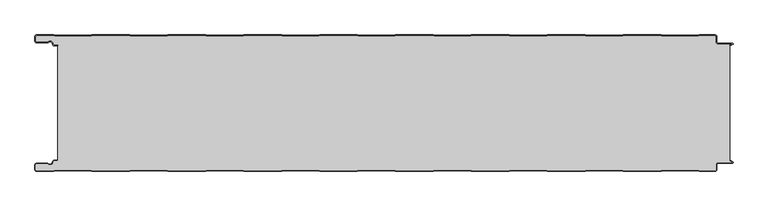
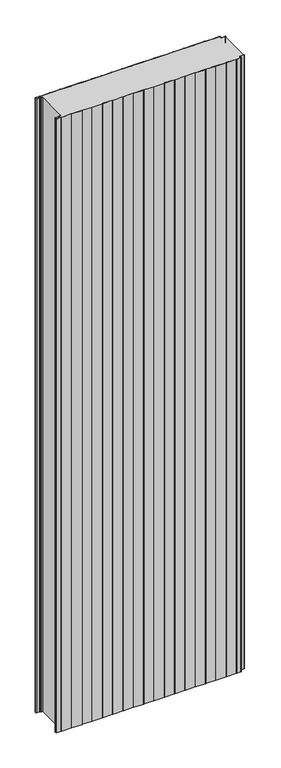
"""IFC4 building model written with IfcOpenShell, lengths in millimetres: plate geometry, ACH_Panel-Frigorífico_PUR-PIR : ACH_Panel-Frigorífico-PIR_200mm."""

from ifc_helpers import new_model, si_unit, point, frame_2d, origin, origin_with_axes, place, context, project, spatial, polyline, circle_curve, trimmed, segment, composite_curve, outline, extrude, source, transform, mapped, element, save


def plate_97d00396(model_context):
    return source(origin(), model_context, "Body", "SweptSolid", [
        extrude(outline(composite_curve([segment(trimmed(circle_curve(frame_2d((-497.49499, -9.0180361)), 2.50501), [point((-497.49499, -11.5230461))], [point((-500.0, -9.0180361))], False, "CARTESIAN"), True, "CONTINUOUS"), segment(polyline([(-500.0, -9.0180361), (-500.0, -2.50501)]), True, "CONTINUOUS"), segment(trimmed(circle_curve(frame_2d((-497.49499, -2.50501)), 2.50501), [point((-500.0, -2.50501))], [point((-497.49499, 0.0))], False, "CARTESIAN"), True, "CONTINUOUS"), segment(polyline([(-497.49499, 0.0), (-472.2103007, 0.0), (-471.028188, -0.6012024), (-417.6391467, -0.6012024), (-416.457034, 0.0), (-360.8776353, 0.0), (-359.6955227, -0.6012024), (-306.3064814, -0.6012024), (-305.1243687, 0.0), (-249.54497, 0.0), (-248.3628573, -0.6012024), (-194.973816, -0.6012024), (-193.7917033, 0.0), (-138.2123047, 0.0), (-137.030192, -0.6012024), (-83.6411507, -0.6012024), (-82.459038, 0.0), (-26.8796393, 0.0), (-25.6975267, -0.6012024), (27.6915146, -0.6012024), (28.8736273, 0.0), (84.453026, 0.0), (85.6351387, -0.6012024), (139.02418, -0.6012024), (140.2062927, 0.0), (195.7856913, 0.0), (196.967804, -0.6012024), (250.3568453, -0.6012024), (251.538958, 0.0), (307.1183566, 0.0), (308.3004693, -0.6012024), (361.6895106, -0.6012024), (362.8716233, 0.0), (418.451022, 0.0), (419.6331347, -0.6012024), (473.022176, -0.6012024), (474.2042886, 0.0), (497.49499, 0.0)]), True, "CONTINUOUS"), segment(trimmed(circle_curve(frame_2d((497.49499, -2.50501)), 2.50501), [point((497.49499, 0.0))], [point((500.0, -2.50501))], False, "CARTESIAN"), True, "CONTINUOUS"), segment(polyline([(500.0, -2.50501), (500.0, -10.0200401)]), True, "CONTINUOUS"), segment(trimmed(circle_curve(frame_2d((502.004008, -10.0200401)), 2.004008), [point((500.0, -10.0200401))], [point((502.004008, -12.0240481))], True, "CARTESIAN"), True, "CONTINUOUS"), segment(polyline([(502.004008, -12.0240481), (523.0460922, -12.0240481)]), True, "CONTINUOUS"), segment(trimmed(circle_curve(frame_2d((523.0460922, -13.0260521)), 1.002004), [point((523.0460922, -12.0240481))], [point((523.5470942, -13.893813))], False, "CARTESIAN"), True, "CONTINUOUS"), segment(polyline([(523.5470942, -13.893813), (519.5390782, -16.2078422), (519.1390782, -15.5150218), (522.183956, -13.7570608)]), True, "CONTINUOUS"), segment(trimmed(circle_curve(frame_2d((521.933956, -13.3240481)), 0.5), [point((522.183956, -13.7570608))], [point((521.933956, -12.8240481))], True, "CARTESIAN"), True, "CONTINUOUS"), segment(polyline([(521.933956, -12.8240481), (502.004008, -12.8240481)]), True, "CONTINUOUS"), segment(trimmed(circle_curve(frame_2d((502.004008, -10.0200401)), 2.804008), [point((502.004008, -12.8240481))], [point((499.2, -10.0200401))], False, "CARTESIAN"), True, "CONTINUOUS"), segment(polyline([(499.2, -10.0200401), (499.2, -2.50501)]), True, "CONTINUOUS"), segment(trimmed(circle_curve(frame_2d((497.49499, -2.50501)), 1.70501), [point((499.2, -2.50501))], [point((497.49499, -0.8))], True, "CARTESIAN"), True, "CONTINUOUS"), segment(polyline([(497.49499, -0.8), (474.396035, -0.8), (473.2139223, -1.4012024), (419.4413883, -1.4012024), (418.2592756, -0.8), (363.0633697, -0.8), (361.881257, -1.4012024), (308.108723, -1.4012024), (306.9266103, -0.8), (251.7307044, -0.8), (250.5485917, -1.4012024), (196.7760576, -1.4012024), (195.5939449, -0.8), (140.398039, -0.8), (139.2159263, -1.4012024), (85.4433923, -1.4012024), (84.2612796, -0.8), (29.0653737, -0.8), (27.883261, -1.4012024), (-25.889273, -1.4012024), (-27.0713857, -0.8), (-82.2672916, -0.8), (-83.4494043, -1.4012024), (-137.2219384, -1.4012024), (-138.4040511, -0.8), (-193.599957, -0.8), (-194.7820696, -1.4012024), (-248.5546037, -1.4012024), (-249.7367164, -0.8), (-304.9326223, -0.8), (-306.114735, -1.4012024), (-359.887269, -1.4012024), (-361.0693817, -0.8), (-416.2652876, -0.8), (-417.4474003, -1.4012024), (-471.2199344, -1.4012024), (-472.4020471, -0.8), (-497.49499, -0.8)]), True, "CONTINUOUS"), segment(trimmed(circle_curve(frame_2d((-497.49499, -2.50501)), 1.70501), [point((-497.49499, -0.8))], [point((-499.2, -2.50501))], True, "CARTESIAN"), True, "CONTINUOUS"), segment(polyline([(-499.2, -2.50501), (-499.2, -9.0180361)]), True, "CONTINUOUS"), segment(trimmed(circle_curve(frame_2d((-497.49499, -9.0180361)), 1.70501), [point((-499.2, -9.0180361))], [point((-497.49499, -10.7230461))], True, "CARTESIAN"), True, "CONTINUOUS"), segment(polyline([(-497.49499, -10.7230461), (-481.8173283, -10.7230461)]), True, "CONTINUOUS"), segment(trimmed(circle_curve(frame_2d((-481.8173283, -9.0180361)), 1.70501), [point((-481.8173283, -10.7230461))], [point((-480.6895701, -10.2967936))], True, "CARTESIAN"), True, "CONTINUOUS"), segment(trimmed(circle_curve(frame_2d((-477.8407481, -13.5270541)), 4.307014), [point((-480.6895701, -10.2967936))], [point((-473.7934788, -12.0539686))], False, "CARTESIAN"), True, "CONTINUOUS"), segment(polyline([(-473.7934788, -12.0539686), (-473.0450711, -14.1102019)]), True, "CONTINUOUS"), segment(trimmed(circle_curve(frame_2d((-471.4428858, -13.5270541)), 1.70501), [point((-473.0450711, -14.1102019))], [point((-471.4428858, -15.2320641))], True, "CARTESIAN"), True, "CONTINUOUS"), segment(polyline([(-471.4428858, -15.2320641), (-466.4328657, -15.2320641), (-466.4328657, -16.0320641), (-471.4428858, -16.0320641)]), True, "CONTINUOUS"), segment(trimmed(circle_curve(frame_2d((-471.4428858, -13.5270541)), 2.50501), [point((-471.4428858, -16.0320641))], [point((-473.7968252, -14.383818))], False, "CARTESIAN"), True, "CONTINUOUS"), segment(polyline([(-473.7968252, -14.383818), (-474.5452329, -12.3275847)]), True, "CONTINUOUS"), segment(trimmed(circle_curve(frame_2d((-477.8407481, -13.5270541)), 3.507014), [point((-474.5452329, -12.3275847))], [point((-480.1604199, -10.8967936))], True, "CARTESIAN"), True, "CONTINUOUS"), segment(trimmed(circle_curve(frame_2d((-481.8173283, -9.0180361)), 2.50501), [point((-480.1604199, -10.8967936))], [point((-481.8173283, -11.5230461))], False, "CARTESIAN"), True, "CONTINUOUS"), segment(polyline([(-481.8173283, -11.5230461), (-497.49499, -11.5230461)]), True, "CONTINUOUS")], self_intersect=False)), origin_with_axes(), (0.0, 0.0, 1.0), 3500.0),
        extrude(outline(composite_curve([segment(trimmed(circle_curve(frame_2d((-471.4428858, -13.5270541)), 1.70501), [point((-471.4428858, -15.2320641))], [point((-473.0450711, -14.1102019))], False, "CARTESIAN"), True, "CONTINUOUS"), segment(polyline([(-473.0450711, -14.1102019), (-473.7934788, -12.0539686)]), True, "CONTINUOUS"), segment(trimmed(circle_curve(frame_2d((-477.8407481, -13.5270541)), 4.307014), [point((-473.7934788, -12.0539686))], [point((-480.6895701, -10.2967936))], True, "CARTESIAN"), True, "CONTINUOUS"), segment(trimmed(circle_curve(frame_2d((-481.8173283, -9.0180361)), 1.70501), [point((-480.6895701, -10.2967936))], [point((-481.8173283, -10.7230461))], False, "CARTESIAN"), True, "CONTINUOUS"), segment(polyline([(-481.8173283, -10.7230461), (-497.49499, -10.7230461)]), True, "CONTINUOUS"), segment(trimmed(circle_curve(frame_2d((-497.49499, -9.0180361)), 1.70501), [point((-497.49499, -10.7230461))], [point((-499.2, -9.0180361))], False, "CARTESIAN"), True, "CONTINUOUS"), segment(polyline([(-499.2, -9.0180361), (-499.2, -2.50501)]), True, "CONTINUOUS"), segment(trimmed(circle_curve(frame_2d((-497.49499, -2.50501)), 1.70501), [point((-499.2, -2.50501))], [point((-497.49499, -0.8))], False, "CARTESIAN"), True, "CONTINUOUS"), segment(polyline([(-497.49499, -0.8), (-472.4020471, -0.8), (-471.2199344, -1.4012024), (-417.4474003, -1.4012024), (-416.2652876, -0.8), (-361.0693817, -0.8), (-359.887269, -1.4012024), (-306.114735, -1.4012024), (-304.9326223, -0.8), (-249.7367164, -0.8), (-248.5546037, -1.4012024), (-194.7820696, -1.4012024), (-193.599957, -0.8), (-138.4040511, -0.8), (-137.2219384, -1.4012024), (-83.4494043, -1.4012024), (-82.2672916, -0.8), (-27.0713857, -0.8), (-25.889273, -1.4012024), (27.883261, -1.4012024), (29.0653737, -0.8), (84.2612796, -0.8), (85.4433923, -1.4012024), (139.2159263, -1.4012024), (140.398039, -0.8), (195.5939449, -0.8), (196.7760576, -1.4012024), (250.5485917, -1.4012024), (251.7307044, -0.8), (306.9266103, -0.8), (308.108723, -1.4012024), (361.881257, -1.4012024), (363.0633697, -0.8), (418.2592756, -0.8), (419.4413883, -1.4012024), (473.2139223, -1.4012024), (474.396035, -0.8), (497.49499, -0.8)]), True, "CONTINUOUS"), segment(trimmed(circle_curve(frame_2d((497.49499, -2.50501)), 1.70501), [point((497.49499, -0.8))], [point((499.2, -2.50501))], False, "CARTESIAN"), True, "CONTINUOUS"), segment(polyline([(499.2, -2.50501), (499.2, -10.0200401)]), True, "CONTINUOUS"), segment(trimmed(circle_curve(frame_2d((502.004008, -10.0200401)), 2.804008), [point((499.2, -10.0200401))], [point((502.004008, -12.8240481))], True, "CARTESIAN"), True, "CONTINUOUS"), segment(polyline([(502.004008, -12.8240481), (521.933956, -12.8240481)]), True, "CONTINUOUS"), segment(trimmed(circle_curve(frame_2d((521.933956, -13.3240481)), 0.5), [point((521.933956, -12.8240481))], [point((522.183956, -13.7570608))], False, "CARTESIAN"), True, "CONTINUOUS"), segment(polyline([(522.183956, -13.7570608), (519.1390782, -15.5150218), (519.1390782, -184.4849782), (522.183956, -186.2429392)]), True, "CONTINUOUS"), segment(trimmed(circle_curve(frame_2d((521.933956, -186.6759519)), 0.5), [point((522.183956, -186.2429392))], [point((521.933956, -187.1759519))], False, "CARTESIAN"), True, "CONTINUOUS"), segment(polyline([(521.933956, -187.1759519), (502.004008, -187.1759519)]), True, "CONTINUOUS"), segment(trimmed(circle_curve(frame_2d((502.004008, -189.9799599)), 2.804008), [point((502.004008, -187.1759519))], [point((499.2, -189.9799599))], True, "CARTESIAN"), True, "CONTINUOUS"), segment(polyline([(499.2, -189.9799599), (499.2, -197.49499)]), True, "CONTINUOUS"), segment(trimmed(circle_curve(frame_2d((497.49499, -197.49499)), 1.70501), [point((499.2, -197.49499))], [point((497.49499, -199.2))], False, "CARTESIAN"), True, "CONTINUOUS"), segment(polyline([(497.49499, -199.2), (474.396035, -199.2), (473.2139223, -198.5987976), (419.4413883, -198.5987976), (418.2592756, -199.2), (363.0633697, -199.2), (361.881257, -198.5987976), (308.108723, -198.5987976), (306.9266103, -199.2), (251.7307044, -199.2), (250.5485917, -198.5987976), (196.7760576, -198.5987976), (195.5939449, -199.2), (140.398039, -199.2), (139.2159263, -198.5987976), (85.4433923, -198.5987976), (84.2612796, -199.2), (29.0653737, -199.2), (27.883261, -198.5987976), (-25.889273, -198.5987976), (-27.0713857, -199.2), (-82.2672916, -199.2), (-83.4494043, -198.5987976), (-137.2219384, -198.5987976), (-138.4040511, -199.2), (-193.599957, -199.2), (-194.7820696, -198.5987976), (-248.5546037, -198.5987976), (-249.7367164, -199.2), (-304.9326223, -199.2), (-306.114735, -198.5987976), (-359.887269, -198.5987976), (-361.0693817, -199.2), (-416.2652876, -199.2), (-417.4474003, -198.5987976), (-471.2199344, -198.5987976), (-472.4020471, -199.2), (-497.49499, -199.2)]), True, "CONTINUOUS"), segment(trimmed(circle_curve(frame_2d((-497.49499, -197.49499)), 1.70501), [point((-497.49499, -199.2))], [point((-499.2, -197.49499))], False, "CARTESIAN"), True, "CONTINUOUS"), segment(polyline([(-499.2, -197.49499), (-499.2, -190.9819639)]), True, "CONTINUOUS"), segment(trimmed(circle_curve(frame_2d((-497.49499, -190.9819639)), 1.70501), [point((-499.2, -190.9819639))], [point((-497.49499, -189.2769539))], False, "CARTESIAN"), True, "CONTINUOUS"), segment(polyline([(-497.49499, -189.2769539), (-481.8173283, -189.2769539)]), True, "CONTINUOUS"), segment(trimmed(circle_curve(frame_2d((-481.8173283, -190.9819639)), 1.70501), [point((-481.8173283, -189.2769539))], [point((-480.6895701, -189.7032064))], False, "CARTESIAN"), True, "CONTINUOUS"), segment(trimmed(circle_curve(frame_2d((-477.8407481, -186.4729459)), 4.307014), [point((-480.6895701, -189.7032064))], [point((-473.7934788, -187.9460314))], True, "CARTESIAN"), True, "CONTINUOUS"), segment(polyline([(-473.7934788, -187.9460314), (-473.0450711, -185.8897981)]), True, "CONTINUOUS"), segment(trimmed(circle_curve(frame_2d((-471.4428858, -186.4729459)), 1.70501), [point((-473.0450711, -185.8897981))], [point((-471.4428858, -184.7679359))], False, "CARTESIAN"), True, "CONTINUOUS"), segment(polyline([(-471.4428858, -184.7679359), (-466.4328657, -184.7679359), (-466.4328657, -15.2320641), (-471.4428858, -15.2320641)]), True, "CONTINUOUS")], self_intersect=False)), origin_with_axes(), (0.0, 0.0, 1.0), 3500.0),
        extrude(outline(composite_curve([segment(polyline([(-497.49499, -188.4769539), (-481.8173283, -188.4769539)]), True, "CONTINUOUS"), segment(trimmed(circle_curve(frame_2d((-481.8173283, -190.9819639)), 2.50501), [point((-481.8173283, -188.4769539))], [point((-480.1604199, -189.1032064))], False, "CARTESIAN"), True, "CONTINUOUS"), segment(trimmed(circle_curve(frame_2d((-477.8407481, -186.4729459)), 3.507014), [point((-480.1604199, -189.1032064))], [point((-474.5452329, -187.6724153))], True, "CARTESIAN"), True, "CONTINUOUS"), segment(polyline([(-474.5452329, -187.6724153), (-473.7968252, -185.616182)]), True, "CONTINUOUS"), segment(trimmed(circle_curve(frame_2d((-471.4428858, -186.4729459)), 2.50501), [point((-473.7968252, -185.616182))], [point((-471.4428858, -183.9679359))], False, "CARTESIAN"), True, "CONTINUOUS"), segment(polyline([(-471.4428858, -183.9679359), (-466.4328657, -183.9679359), (-466.4328657, -184.7679359), (-471.4428858, -184.7679359)]), True, "CONTINUOUS"), segment(trimmed(circle_curve(frame_2d((-471.4428858, -186.4729459)), 1.70501), [point((-471.4428858, -184.7679359))], [point((-473.0450711, -185.8897981))], True, "CARTESIAN"), True, "CONTINUOUS"), segment(polyline([(-473.0450711, -185.8897981), (-473.7934788, -187.9460314)]), True, "CONTINUOUS"), segment(trimmed(circle_curve(frame_2d((-477.8407481, -186.4729459)), 4.307014), [point((-473.7934788, -187.9460314))], [point((-480.6895701, -189.7032064))], False, "CARTESIAN"), True, "CONTINUOUS"), segment(trimmed(circle_curve(frame_2d((-481.8173283, -190.9819639)), 1.70501), [point((-480.6895701, -189.7032064))], [point((-481.8173283, -189.2769539))], True, "CARTESIAN"), True, "CONTINUOUS"), segment(polyline([(-481.8173283, -189.2769539), (-497.49499, -189.2769539)]), True, "CONTINUOUS"), segment(trimmed(circle_curve(frame_2d((-497.49499, -190.9819639)), 1.70501), [point((-497.49499, -189.2769539))], [point((-499.2, -190.9819639))], True, "CARTESIAN"), True, "CONTINUOUS"), segment(polyline([(-499.2, -190.9819639), (-499.2, -197.49499)]), True, "CONTINUOUS"), segment(trimmed(circle_curve(frame_2d((-497.49499, -197.49499)), 1.70501), [point((-499.2, -197.49499))], [point((-497.49499, -199.2))], True, "CARTESIAN"), True, "CONTINUOUS"), segment(polyline([(-497.49499, -199.2), (-472.4020471, -199.2), (-471.2199344, -198.5987976), (-417.4474003, -198.5987976), (-416.2652876, -199.2), (-361.0693817, -199.2), (-359.887269, -198.5987976), (-306.114735, -198.5987976), (-304.9326223, -199.2), (-249.7367164, -199.2), (-248.5546037, -198.5987976), (-194.7820696, -198.5987976), (-193.599957, -199.2), (-138.4040511, -199.2), (-137.2219384, -198.5987976), (-83.4494043, -198.5987976), (-82.2672916, -199.2), (-27.0713857, -199.2), (-25.889273, -198.5987976), (27.883261, -198.5987976), (29.0653737, -199.2), (84.2612796, -199.2), (85.4433923, -198.5987976), (139.2159263, -198.5987976), (140.398039, -199.2), (195.5939449, -199.2), (196.7760576, -198.5987976), (250.5485917, -198.5987976), (251.7307044, -199.2), (306.9266103, -199.2), (308.108723, -198.5987976), (361.881257, -198.5987976), (363.0633697, -199.2), (418.2592756, -199.2), (419.4413883, -198.5987976), (473.2139223, -198.5987976), (474.396035, -199.2), (497.49499, -199.2)]), True, "CONTINUOUS"), segment(trimmed(circle_curve(frame_2d((497.49499, -197.49499)), 1.70501), [point((497.49499, -199.2))], [point((499.2, -197.49499))], True, "CARTESIAN"), True, "CONTINUOUS"), segment(polyline([(499.2, -197.49499), (499.2, -189.9799599)]), True, "CONTINUOUS"), segment(trimmed(circle_curve(frame_2d((502.004008, -189.9799599)), 2.804008), [point((499.2, -189.9799599))], [point((502.004008, -187.1759519))], False, "CARTESIAN"), True, "CONTINUOUS"), segment(polyline([(502.004008, -187.1759519), (521.933956, -187.1759519)]), True, "CONTINUOUS"), segment(trimmed(circle_curve(frame_2d((521.933956, -186.6759519)), 0.5), [point((521.933956, -187.1759519))], [point((522.183956, -186.2429392))], True, "CARTESIAN"), True, "CONTINUOUS"), segment(polyline([(522.183956, -186.2429392), (519.1390782, -184.4849782), (519.5390782, -183.7921578), (523.5470942, -186.106187)]), True, "CONTINUOUS"), segment(trimmed(circle_curve(frame_2d((523.0460922, -186.9739479)), 1.002004), [point((523.5470942, -186.106187))], [point((523.0460922, -187.9759519))], False, "CARTESIAN"), True, "CONTINUOUS"), segment(polyline([(523.0460922, -187.9759519), (502.004008, -187.9759519)]), True, "CONTINUOUS"), segment(trimmed(circle_curve(frame_2d((502.004008, -189.9799599)), 2.004008), [point((502.004008, -187.9759519))], [point((500.0, -189.9799599))], True, "CARTESIAN"), True, "CONTINUOUS"), segment(polyline([(500.0, -189.9799599), (500.0, -197.49499)]), True, "CONTINUOUS"), segment(trimmed(circle_curve(frame_2d((497.49499, -197.49499)), 2.50501), [point((500.0, -197.49499))], [point((497.49499, -200.0))], False, "CARTESIAN"), True, "CONTINUOUS"), segment(polyline([(497.49499, -200.0), (474.2042886, -200.0), (473.022176, -199.3987976), (419.6331347, -199.3987976), (418.451022, -200.0), (362.8716233, -200.0), (361.6895106, -199.3987976), (308.3004693, -199.3987976), (307.1183566, -200.0), (251.538958, -200.0), (250.3568453, -199.3987976), (196.967804, -199.3987976), (195.7856913, -200.0), (140.2062927, -200.0), (139.02418, -199.3987976), (85.6351387, -199.3987976), (84.453026, -200.0), (28.8736273, -200.0), (27.6915146, -199.3987976), (-25.6975267, -199.3987976), (-26.8796393, -200.0), (-82.459038, -200.0), (-83.6411507, -199.3987976), (-137.030192, -199.3987976), (-138.2123047, -200.0), (-193.7917033, -200.0), (-194.973816, -199.3987976), (-248.3628573, -199.3987976), (-249.54497, -200.0), (-305.1243687, -200.0), (-306.3064814, -199.3987976), (-359.6955227, -199.3987976), (-360.8776353, -200.0), (-416.457034, -200.0), (-417.6391467, -199.3987976), (-471.028188, -199.3987976), (-472.2103007, -200.0), (-497.49499, -200.0)]), True, "CONTINUOUS"), segment(trimmed(circle_curve(frame_2d((-497.49499, -197.49499)), 2.50501), [point((-497.49499, -200.0))], [point((-500.0, -197.49499))], False, "CARTESIAN"), True, "CONTINUOUS"), segment(polyline([(-500.0, -197.49499), (-500.0, -190.9819639)]), True, "CONTINUOUS"), segment(trimmed(circle_curve(frame_2d((-497.49499, -190.9819639)), 2.50501), [point((-500.0, -190.9819639))], [point((-497.49499, -188.4769539))], False, "CARTESIAN"), True, "CONTINUOUS")], self_intersect=False)), origin_with_axes(), (0.0, 0.0, 1.0), 3500.0),
    ])


if __name__ == "__main__":
    model = new_model("IFC4")
    model_context = context("Model", 3, world=origin())
    ifc_project = project(units=[si_unit("LENGTHUNIT", "METRE", prefix="MILLI")], contexts=[model_context])
    site = spatial("IfcSite", under=ifc_project)
    building = spatial("IfcBuilding", under=site)
    placement = place(None, origin())
    plate_shape = plate_97d00396(model_context)
    element("IfcPlate", 1, ObjectType="ACH_Panel-Frigorífico_PUR-PIR : ACH_Panel-Frigorífico-PIR_200mm", at=placement, inside=building, context=model_context, shape_type="MappedRepresentation", body=[
        mapped(plate_shape, transform((0.0, 0.0, 0.0), x_axis=(1.0, 0.0, 0.0), y_axis=(0.0, 1.0, 0.0), z_axis=(0.0, 0.0, 1.0))),
    ])
    save(model, "model.ifc")
